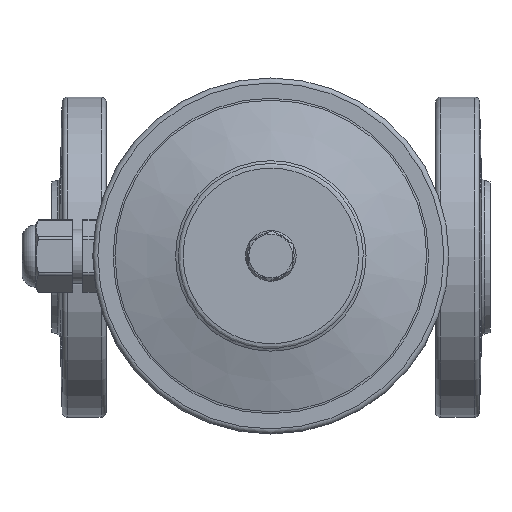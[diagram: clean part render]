
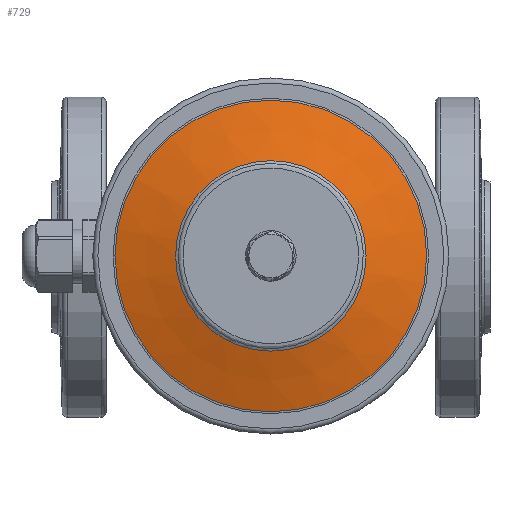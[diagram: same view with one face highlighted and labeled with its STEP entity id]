
A CAD part, top view. The second image highlights one B-rep face of the part: STEP entity #729.
In plain terms, the highlighted conical face has half-angle 73.4 degrees and reference radius 36.989 mm.
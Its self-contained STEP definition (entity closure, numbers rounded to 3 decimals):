
#695=CARTESIAN_POINT('',(0.,-28.242,207.943));
#696=VERTEX_POINT('',#695);
#697=CARTESIAN_POINT('',(0.,0.,207.943));
#698=DIRECTION('',(0.0,0.0,1.0));
#699=DIRECTION('',(0.0,1.0,0.0));
#700=AXIS2_PLACEMENT_3D('',#697,#698,#699);
#701=CIRCLE('',#700,28.242);
#702=EDGE_CURVE('',#696,#696,#701,.T.);
#710=CARTESIAN_POINT('',(0.,0.,205.335));
#711=DIRECTION('',(0.,0.,-1.0));
#712=DIRECTION('',(0.0,-1.0,0.0));
#713=AXIS2_PLACEMENT_3D('',#710,#711,#712);
#714=CONICAL_SURFACE('',#713,36.989,73.4);
#715=CARTESIAN_POINT('',(0.,-46.22,202.583));
#716=VERTEX_POINT('',#715);
#717=CARTESIAN_POINT('',(0.,0.,202.583));
#718=DIRECTION('',(0.0,0.0,-1.0));
#719=DIRECTION('',(0.0,1.0,0.0));
#720=AXIS2_PLACEMENT_3D('',#717,#718,#719);
#721=CIRCLE('',#720,46.22);
#722=EDGE_CURVE('',#716,#716,#721,.T.);
#723=ORIENTED_EDGE('',*,*,#722,.F.);
#724=EDGE_LOOP('',(#723));
#725=FACE_OUTER_BOUND('',#724,.T.);
#726=ORIENTED_EDGE('',*,*,#702,.F.);
#727=EDGE_LOOP('',(#726));
#728=FACE_BOUND('',#727,.T.);
#729=ADVANCED_FACE('',(#725,#728),#714,.T.);
